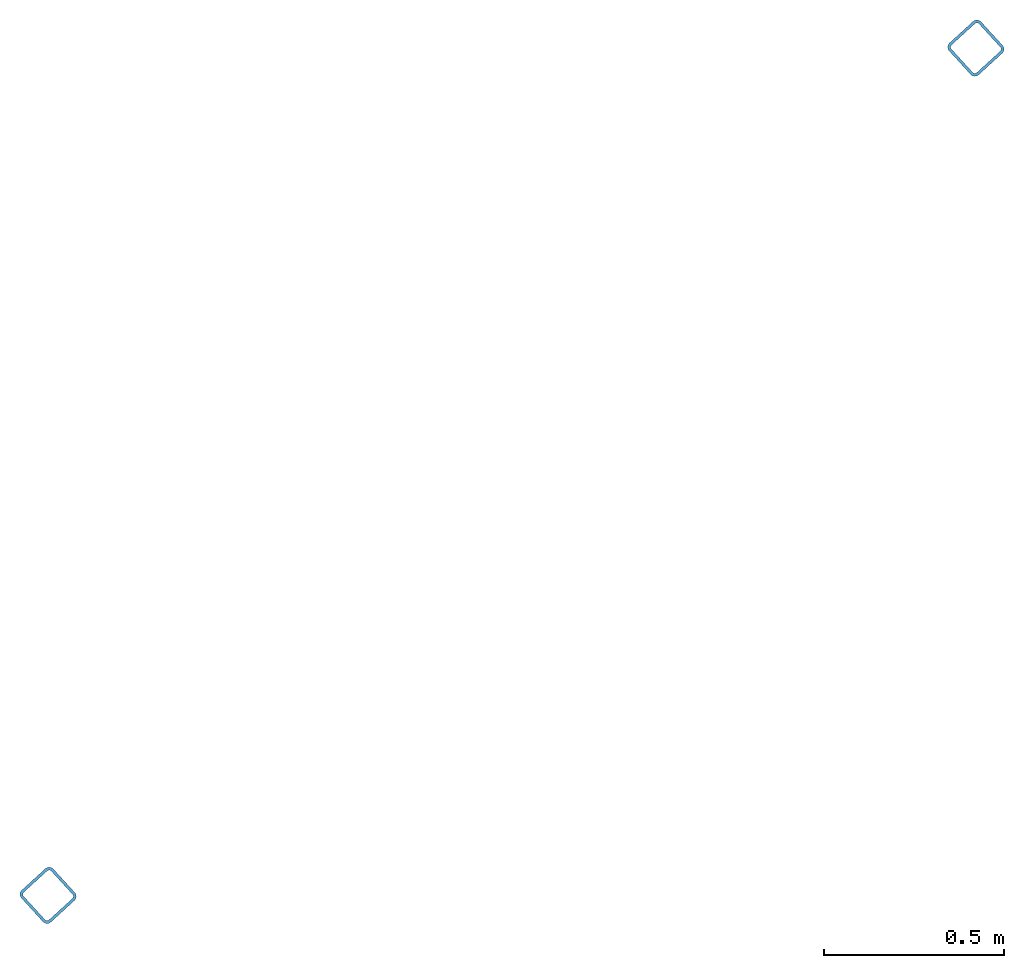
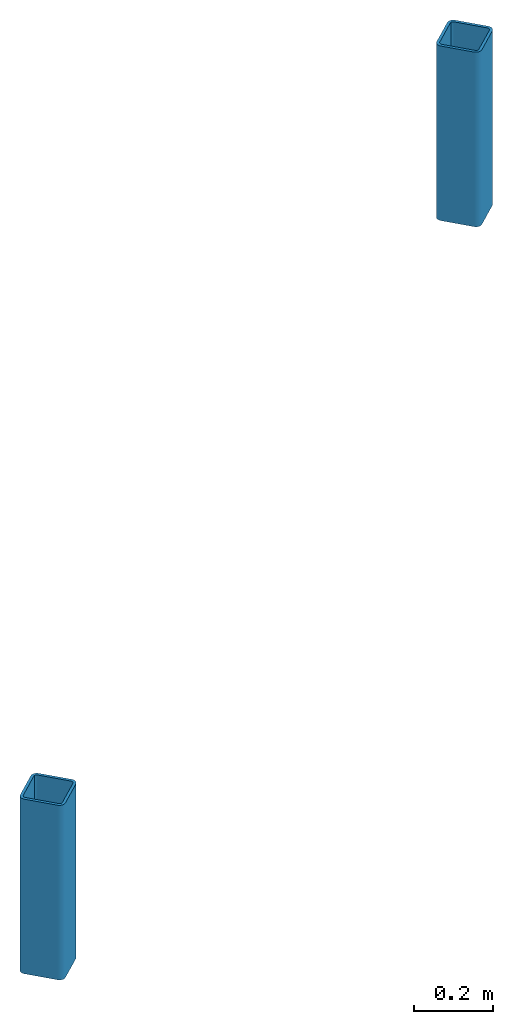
# One storey: 2 columns.
"""IFC2X3 building model written with IfcOpenShell, lengths in millimetres."""

from ifc_helpers import new_model, entity, si_unit, converted_unit, derived_unit, direction, frame, origin, origin_with_axes, place, context, subcontext, project, spatial, faceted_brep, material, type_object, element, save


model = new_model("IFC2X3")

# Units and contexts
model_context = context("Model", 3, precision=0.01, world=origin(), true_north=direction((6.12323399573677e-17, 1.0)))
plan_context = context("Plan", 3, precision=1e-05, world=origin_with_axes())
body_context = subcontext(model_context, "Body", "Model", "MODEL_VIEW")
ifc_project = project(units=[converted_unit("PLANEANGLEUNIT", "DEGREE", entity("IfcPositiveLengthMeasure", 0.0174532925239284), si_unit("PLANEANGLEUNIT", "RADIAN"), dimensions=[0, 0, 0, 0, 0, 0, 0]), si_unit("AREAUNIT", "SQUARE_METRE"), si_unit("LENGTHUNIT", "METRE", prefix="MILLI"), si_unit("MASSUNIT", "GRAM", prefix="KILO"), si_unit("POWERUNIT", "WATT"), si_unit("PRESSUREUNIT", "PASCAL", prefix="KILO"), si_unit("FORCEUNIT", "NEWTON", prefix="KILO"), si_unit("ELECTRICVOLTAGEUNIT", "VOLT"), si_unit("ELECTRICCURRENTUNIT", "AMPERE"), si_unit("THERMODYNAMICTEMPERATUREUNIT", "DEGREE_CELSIUS"), si_unit("TIMEUNIT", "SECOND"), si_unit("VOLUMEUNIT", "CUBIC_METRE"), derived_unit("LINEARVELOCITYUNIT", [(si_unit("LENGTHUNIT", "METRE"), 1), (si_unit("TIMEUNIT", "SECOND"), -1)]), derived_unit("VOLUMETRICFLOWRATEUNIT", [(si_unit("VOLUMEUNIT", "CUBIC_METRE"), 1), (si_unit("TIMEUNIT", "SECOND"), -1)]), derived_unit("THERMALTRANSMITTANCEUNIT", [(si_unit("POWERUNIT", "WATT"), 1), (si_unit("THERMODYNAMICTEMPERATUREUNIT", "KELVIN"), -1), (si_unit("AREAUNIT", "SQUARE_METRE"), -1)]), derived_unit("SOUNDPRESSUREUNIT", [(si_unit("PRESSUREUNIT", "PASCAL"), 1)])], contexts=[model_context, plan_context])

# Site, building, storey
site_placement = place(None, frame((0.0, 0.0, 0.0), z_axis=(0.0, 0.0, 1.0), x_axis=(0.214787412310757, -0.97666082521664, 0.0)))
site = spatial("IfcSite", under=ifc_project, at=site_placement, Name="Default", CompositionType="ELEMENT")
building_placement = place(site_placement, origin_with_axes())
building = spatial("IfcBuilding", under=site, at=building_placement, CompositionType="ELEMENT")
storey_placement = place(building_placement, frame((0.0, 0.0, 5100.0), z_axis=(0.0, 0.0, 1.0), x_axis=(1.0, 0.0, 0.0)))
storey = spatial("IfcBuildingStorey", under=building, at=storey_placement, Name="1. ETASJE", CompositionType="ELEMENT", Elevation=5099.99999999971)

# Columns
ifc_material = material(Name="Stål - S355J")
column_type = type_object("IfcColumnType", Name="NO_Column_Steel_Hollow Rectangular:RHS 120x120x8", PredefinedType="COLUMN", material=ifc_material)
column_1_placement = place(storey_placement, frame((-63597.8728076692, 292993.846004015, -5100.0), z_axis=(0.0, 0.0, 1.0), x_axis=(0.866025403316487, 0.500000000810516, 0.0)))
element("IfcColumn", 1, at=column_1_placement, inside=storey, type_object=column_type, Name="NO_Column_Steel_Hollow Rectangular:RHS 120x120x8", ObjectType="NO_Column_Steel_Hollow Rectangular:RHS 120x120x8", context=body_context, shape_type="Brep", body=[
    faceted_brep([(44.0, 52.0, 8300.0), (-44.0, 52.0, 8300.0), (-44.0, 52.0, 8840.0), (44.0, 52.0, 8840.0), (45.2514757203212, 51.9015067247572, 8300.0), (45.2514757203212, 51.9015067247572, 8840.0), (46.4721359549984, 51.6084521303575, 8300.0), (46.4721359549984, 51.6084521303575, 8840.0), (47.6319239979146, 51.1280521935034, 8300.0), (47.6319239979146, 51.1280521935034, 8840.0), (48.7022820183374, 50.4721359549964, 8300.0), (48.7022820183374, 50.4721359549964, 8840.0), (49.6568542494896, 49.6568542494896, 8300.0), (49.6568542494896, 49.6568542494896, 8840.0), (50.4721359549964, 48.7022820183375, 8300.0), (50.4721359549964, 48.7022820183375, 8840.0), (51.1280521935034, 47.6319239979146, 8300.0), (51.1280521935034, 47.6319239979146, 8840.0), (51.6084521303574, 46.4721359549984, 8300.0), (51.6084521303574, 46.4721359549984, 8840.0), (51.9015067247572, 45.2514757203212, 8300.0), (51.9015067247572, 45.2514757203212, 8840.0), (52.0, 44.0, 8300.0), (52.0, 44.0, 8840.0), (52.0, -44.0, 8300.0), (52.0, -44.0, 8840.0), (51.9015067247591, -45.2514757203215, 8300.0), (51.9015067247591, -45.2514757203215, 8840.0), (51.6084521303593, -46.4721359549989, 8300.0), (51.6084521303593, -46.4721359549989, 8840.0), (51.1280521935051, -47.6319239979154, 8300.0), (51.1280521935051, -47.6319239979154, 8840.0), (50.4721359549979, -48.7022820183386, 8300.0), (50.4721359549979, -48.7022820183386, 8840.0), (49.6568542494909, -49.6568542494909, 8300.0), (49.6568542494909, -49.6568542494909, 8840.0), (48.7022820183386, -50.4721359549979, 8300.0), (48.7022820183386, -50.4721359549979, 8840.0), (47.6319239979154, -51.1280521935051, 8300.0), (47.6319239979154, -51.1280521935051, 8840.0), (46.4721359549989, -51.6084521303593, 8300.0), (46.4721359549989, -51.6084521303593, 8840.0), (45.2514757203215, -51.9015067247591, 8300.0), (45.2514757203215, -51.9015067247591, 8840.0), (44.0, -52.0000000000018, 8300.0), (44.0, -52.0000000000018, 8840.0), (-44.0, -52.0000000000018, 8300.0), (-44.0, -52.0000000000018, 8840.0), (-45.2514757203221, -51.9015067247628, 8300.0), (-45.2514757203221, -51.9015067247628, 8840.0), (-46.4721359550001, -51.6084521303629, 8300.0), (-46.4721359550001, -51.6084521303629, 8840.0), (-47.6319239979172, -51.1280521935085, 8300.0), (-47.6319239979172, -51.1280521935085, 8840.0), (-48.7022820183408, -50.472135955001, 8300.0), (-48.7022820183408, -50.472135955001, 8840.0), (-49.6568542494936, -49.6568542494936, 8300.0), (-49.6568542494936, -49.6568542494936, 8840.0), (-50.472135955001, -48.7022820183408, 8300.0), (-50.472135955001, -48.7022820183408, 8840.0), (-51.1280521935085, -47.6319239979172, 8300.0), (-51.1280521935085, -47.6319239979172, 8840.0), (-51.6084521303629, -46.4721359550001, 8300.0), (-51.6084521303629, -46.4721359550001, 8840.0), (-51.9015067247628, -45.2514757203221, 8300.0), (-51.9015067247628, -45.2514757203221, 8840.0), (-52.0000000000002, -44.0, 8300.0), (-52.0000000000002, -44.0, 8840.0), (-52.0000000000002, 44.0, 8300.0), (-52.0000000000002, 44.0, 8840.0), (-51.8784620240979, 45.3891854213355, 8300.0), (-51.8784620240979, 45.3891854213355, 8840.0), (-51.5175409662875, 46.7361611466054, 8300.0), (-51.5175409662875, 46.7361611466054, 8840.0), (-50.9282032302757, 48.0000000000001, 8300.0), (-50.9282032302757, 48.0000000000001, 8840.0), (-50.128355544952, 49.1423008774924, 8300.0), (-50.128355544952, 49.1423008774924, 8840.0), (-49.1423008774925, 50.128355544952, 8300.0), (-49.1423008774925, 50.128355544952, 8840.0), (-48.0000000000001, 50.9282032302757, 8300.0), (-48.0000000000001, 50.9282032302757, 8840.0), (-46.7361611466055, 51.5175409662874, 8300.0), (-46.7361611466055, 51.5175409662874, 8840.0), (-45.3891854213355, 51.8784620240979, 8300.0), (-45.3891854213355, 51.8784620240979, 8840.0), (44.0, 60.0, 8300.0), (46.7783708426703, 59.7569240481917, 8300.0), (46.7783708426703, 59.7569240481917, 8840.0), (44.0, 60.0, 8840.0), (-44.0, 59.9999999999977, 8300.0), (-44.0, 59.9999999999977, 8840.0), (-46.7783708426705, 59.7569240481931, 8300.0), (-46.7783708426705, 59.7569240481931, 8840.0), (-49.4723222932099, 59.0350819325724, 8300.0), (-49.4723222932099, 59.0350819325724, 8840.0), (-51.9999999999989, 57.856406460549, 8300.0), (-51.9999999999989, 57.856406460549, 8840.0), (-54.2846017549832, 56.2567110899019, 8300.0), (-54.2846017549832, 56.2567110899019, 8840.0), (-56.2567110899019, 54.2846017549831, 8300.0), (-56.2567110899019, 54.2846017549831, 8840.0), (-57.856406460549, 51.9999999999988, 8300.0), (-57.856406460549, 51.9999999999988, 8840.0), (-59.0350819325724, 49.4723222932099, 8300.0), (-59.0350819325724, 49.4723222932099, 8840.0), (-59.7569240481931, 46.7783708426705, 8300.0), (-59.7569240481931, 46.7783708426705, 8840.0), (-60.0, 44.0, 8300.0), (-60.0, 44.0, 8840.0), (-60.0000000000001, -44.0, 8300.0), (-60.0000000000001, -44.0, 8840.0), (-59.8030134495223, -46.5029514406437, 8300.0), (-59.8030134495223, -46.5029514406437, 8840.0), (-59.2169042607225, -48.9442719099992, 8300.0), (-59.2169042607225, -48.9442719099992, 8840.0), (-58.256104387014, -51.2638479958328, 8300.0), (-58.256104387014, -51.2638479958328, 8840.0), (-56.9442719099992, -53.4045640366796, 8300.0), (-56.9442719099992, -53.4045640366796, 8840.0), (-55.3137084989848, -55.3137084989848, 8300.0), (-55.3137084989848, -55.3137084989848, 8840.0), (-53.4045640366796, -56.9442719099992, 8300.0), (-53.4045640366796, -56.9442719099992, 8840.0), (-51.2638479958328, -58.256104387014, 8300.0), (-51.2638479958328, -58.256104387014, 8840.0), (-48.9442719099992, -59.2169042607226, 8300.0), (-48.9442719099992, -59.2169042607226, 8840.0), (-46.5029514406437, -59.8030134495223, 8300.0), (-46.5029514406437, -59.8030134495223, 8840.0), (-44.0, -60.0, 8300.0), (-44.0, -60.0, 8840.0), (43.9999999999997, -60.0000000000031, 8300.0), (43.9999999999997, -60.0000000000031, 8840.0), (46.5029514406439, -59.8030134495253, 8300.0), (46.5029514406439, -59.8030134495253, 8840.0), (48.9442719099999, -59.2169042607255, 8300.0), (48.9442719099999, -59.2169042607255, 8840.0), (51.263847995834, -58.2561043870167, 8300.0), (51.263847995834, -58.2561043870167, 8840.0), (53.4045640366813, -56.9442719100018, 8300.0), (53.4045640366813, -56.9442719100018, 8840.0), (55.3137084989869, -55.313708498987, 8300.0), (55.3137084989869, -55.313708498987, 8840.0), (56.9442719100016, -53.4045640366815, 8300.0), (56.9442719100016, -53.4045640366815, 8840.0), (58.2561043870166, -51.2638479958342, 8300.0), (58.2561043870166, -51.2638479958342, 8840.0), (59.2169042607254, -48.9442719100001, 8300.0), (59.2169042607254, -48.9442719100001, 8840.0), (59.8030134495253, -46.5029514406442, 8300.0), (59.8030134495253, -46.5029514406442, 8840.0), (60.0, -44.0, 8300.0), (60.0, -44.0, 8840.0), (59.9999999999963, 44.0, 8300.0), (59.9999999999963, 44.0, 8840.0), (59.7569240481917, 46.7783708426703, 8300.0), (59.7569240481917, 46.7783708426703, 8840.0), (59.0350819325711, 49.4723222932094, 8300.0), (59.0350819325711, 49.4723222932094, 8840.0), (57.8564064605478, 51.9999999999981, 8300.0), (57.8564064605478, 51.9999999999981, 8840.0), (56.2567110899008, 54.2846017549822, 8300.0), (56.2567110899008, 54.2846017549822, 8840.0), (54.2846017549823, 56.2567110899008, 8300.0), (54.2846017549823, 56.2567110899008, 8840.0), (51.9999999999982, 57.8564064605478, 8300.0), (51.9999999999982, 57.8564064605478, 8840.0), (49.4723222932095, 59.035081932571, 8300.0), (49.4723222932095, 59.035081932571, 8840.0)], [[[0, 1, 2, 3]], [[4, 0, 3, 5]], [[6, 4, 5, 7]], [[8, 6, 7, 9]], [[10, 8, 9, 11]], [[12, 10, 11, 13]], [[14, 12, 13, 15]], [[16, 14, 15, 17]], [[18, 16, 17, 19]], [[20, 18, 19, 21]], [[22, 20, 21, 23]], [[24, 22, 23, 25]], [[26, 24, 25, 27]], [[28, 26, 27, 29]], [[30, 28, 29, 31]], [[32, 30, 31, 33]], [[34, 32, 33, 35]], [[36, 34, 35, 37]], [[38, 36, 37, 39]], [[40, 38, 39, 41]], [[42, 40, 41, 43]], [[44, 42, 43, 45]], [[46, 44, 45, 47]], [[48, 46, 47, 49]], [[50, 48, 49, 51]], [[52, 50, 51, 53]], [[54, 52, 53, 55]], [[56, 54, 55, 57]], [[58, 56, 57, 59]], [[60, 58, 59, 61]], [[62, 60, 61, 63]], [[64, 62, 63, 65]], [[66, 64, 65, 67]], [[68, 66, 67, 69]], [[70, 68, 69, 71]], [[72, 70, 71, 73]], [[74, 72, 73, 75]], [[76, 74, 75, 77]], [[78, 76, 77, 79]], [[80, 78, 79, 81]], [[82, 80, 81, 83]], [[84, 82, 83, 85]], [[1, 84, 85, 2]], [[86, 87, 88, 89]], [[90, 86, 89, 91]], [[92, 90, 91, 93]], [[94, 92, 93, 95]], [[96, 94, 95, 97]], [[98, 96, 97, 99]], [[100, 98, 99, 101]], [[102, 100, 101, 103]], [[104, 102, 103, 105]], [[106, 104, 105, 107]], [[108, 106, 107, 109]], [[110, 108, 109, 111]], [[112, 110, 111, 113]], [[114, 112, 113, 115]], [[116, 114, 115, 117]], [[118, 116, 117, 119]], [[120, 118, 119, 121]], [[122, 120, 121, 123]], [[124, 122, 123, 125]], [[126, 124, 125, 127]], [[128, 126, 127, 129]], [[130, 128, 129, 131]], [[132, 130, 131, 133]], [[134, 132, 133, 135]], [[136, 134, 135, 137]], [[138, 136, 137, 139]], [[140, 138, 139, 141]], [[142, 140, 141, 143]], [[144, 142, 143, 145]], [[146, 144, 145, 147]], [[148, 146, 147, 149]], [[150, 148, 149, 151]], [[152, 150, 151, 153]], [[154, 152, 153, 155]], [[156, 154, 155, 157]], [[158, 156, 157, 159]], [[160, 158, 159, 161]], [[162, 160, 161, 163]], [[164, 162, 163, 165]], [[166, 164, 165, 167]], [[168, 166, 167, 169]], [[87, 168, 169, 88]], [[89, 88, 169, 167, 165, 163, 161, 159, 157, 155, 153, 151, 149, 147, 145, 143, 141, 139, 137, 135, 133, 131, 129, 127, 125, 123, 121, 119, 117, 115, 113, 111, 109, 107, 105, 103, 101, 99, 97, 95, 93, 91], [2, 85, 83, 81, 79, 77, 75, 73, 71, 69, 67, 65, 63, 61, 59, 57, 55, 53, 51, 49, 47, 45, 43, 41, 39, 37, 35, 33, 31, 29, 27, 25, 23, 21, 19, 17, 15, 13, 11, 9, 7, 5, 3]], [[90, 92, 94, 96, 98, 100, 102, 104, 106, 108, 110, 112, 114, 116, 118, 120, 122, 124, 126, 128, 130, 132, 134, 136, 138, 140, 142, 144, 146, 148, 150, 152, 154, 156, 158, 160, 162, 164, 166, 168, 87, 86], [4, 6, 8, 10, 12, 14, 16, 18, 20, 22, 24, 26, 28, 30, 32, 34, 36, 38, 40, 42, 44, 46, 48, 50, 52, 54, 56, 58, 60, 62, 64, 66, 68, 70, 72, 74, 76, 78, 80, 82, 84, 1, 0]]], orient=[[False], [False], [False], [False], [False], [False], [False], [False], [False], [False], [False], [False], [False], [False], [False], [False], [False], [False], [False], [False], [False], [False], [False], [False], [False], [False], [False], [False], [False], [False], [False], [False], [False], [False], [False], [False], [False], [False], [False], [False], [False], [False], [False], [False], [False], [False], [False], [False], [False], [False], [False], [False], [False], [False], [False], [False], [False], [False], [False], [False], [False], [False], [False], [False], [False], [False], [False], [False], [False], [False], [False], [False], [False], [False], [False], [False], [False], [False], [False], [False], [False], [False], [False], [False], [False], [False, False], [False, False]]),
])
column_2_placement = place(storey_placement, frame((-61852.8728045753, 289971.417346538, -5100.0), z_axis=(0.0, 0.0, 1.0), x_axis=(0.866025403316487, 0.500000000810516, 0.0)))
element("IfcColumn", 2, at=column_2_placement, inside=storey, type_object=column_type, Name="NO_Column_Steel_Hollow Rectangular:RHS 120x120x8", ObjectType="NO_Column_Steel_Hollow Rectangular:RHS 120x120x8", context=body_context, shape_type="Brep", body=[
    faceted_brep([(44.0, 52.0, 8300.0), (-44.0, 52.0, 8300.0), (-44.0, 52.0, 8840.0), (44.0, 52.0, 8840.0), (45.2514757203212, 51.9015067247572, 8300.0), (45.2514757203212, 51.9015067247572, 8840.0), (46.4721359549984, 51.6084521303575, 8300.0), (46.4721359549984, 51.6084521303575, 8840.0), (47.6319239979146, 51.1280521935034, 8300.0), (47.6319239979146, 51.1280521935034, 8840.0), (48.7022820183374, 50.4721359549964, 8300.0), (48.7022820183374, 50.4721359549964, 8840.0), (49.6568542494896, 49.6568542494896, 8300.0), (49.6568542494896, 49.6568542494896, 8840.0), (50.4721359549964, 48.7022820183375, 8300.0), (50.4721359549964, 48.7022820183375, 8840.0), (51.1280521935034, 47.6319239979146, 8300.0), (51.1280521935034, 47.6319239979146, 8840.0), (51.6084521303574, 46.4721359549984, 8300.0), (51.6084521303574, 46.4721359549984, 8840.0), (51.9015067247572, 45.2514757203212, 8300.0), (51.9015067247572, 45.2514757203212, 8840.0), (52.0, 44.0, 8300.0), (52.0, 44.0, 8840.0), (52.0, -44.0, 8300.0), (52.0, -44.0, 8840.0), (51.9015067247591, -45.2514757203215, 8300.0), (51.9015067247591, -45.2514757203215, 8840.0), (51.6084521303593, -46.4721359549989, 8300.0), (51.6084521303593, -46.4721359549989, 8840.0), (51.1280521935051, -47.6319239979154, 8300.0), (51.1280521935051, -47.6319239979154, 8840.0), (50.4721359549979, -48.7022820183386, 8300.0), (50.4721359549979, -48.7022820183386, 8840.0), (49.6568542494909, -49.6568542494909, 8300.0), (49.6568542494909, -49.6568542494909, 8840.0), (48.7022820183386, -50.4721359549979, 8300.0), (48.7022820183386, -50.4721359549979, 8840.0), (47.6319239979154, -51.1280521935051, 8300.0), (47.6319239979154, -51.1280521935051, 8840.0), (46.4721359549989, -51.6084521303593, 8300.0), (46.4721359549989, -51.6084521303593, 8840.0), (45.2514757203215, -51.9015067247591, 8300.0), (45.2514757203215, -51.9015067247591, 8840.0), (44.0, -52.0000000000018, 8300.0), (44.0, -52.0000000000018, 8840.0), (-44.0, -52.0000000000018, 8300.0), (-44.0, -52.0000000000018, 8840.0), (-45.2514757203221, -51.9015067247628, 8300.0), (-45.2514757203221, -51.9015067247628, 8840.0), (-46.4721359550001, -51.6084521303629, 8300.0), (-46.4721359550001, -51.6084521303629, 8840.0), (-47.6319239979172, -51.1280521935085, 8300.0), (-47.6319239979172, -51.1280521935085, 8840.0), (-48.7022820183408, -50.472135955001, 8300.0), (-48.7022820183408, -50.472135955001, 8840.0), (-49.6568542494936, -49.6568542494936, 8300.0), (-49.6568542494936, -49.6568542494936, 8840.0), (-50.472135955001, -48.7022820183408, 8300.0), (-50.472135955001, -48.7022820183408, 8840.0), (-51.1280521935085, -47.6319239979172, 8300.0), (-51.1280521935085, -47.6319239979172, 8840.0), (-51.6084521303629, -46.4721359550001, 8300.0), (-51.6084521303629, -46.4721359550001, 8840.0), (-51.9015067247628, -45.2514757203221, 8300.0), (-51.9015067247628, -45.2514757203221, 8840.0), (-52.0000000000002, -44.0, 8300.0), (-52.0000000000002, -44.0, 8840.0), (-52.0000000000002, 44.0, 8300.0), (-52.0000000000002, 44.0, 8840.0), (-51.8784620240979, 45.3891854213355, 8300.0), (-51.8784620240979, 45.3891854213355, 8840.0), (-51.5175409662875, 46.7361611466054, 8300.0), (-51.5175409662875, 46.7361611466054, 8840.0), (-50.9282032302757, 48.0000000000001, 8300.0), (-50.9282032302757, 48.0000000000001, 8840.0), (-50.128355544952, 49.1423008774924, 8300.0), (-50.128355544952, 49.1423008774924, 8840.0), (-49.1423008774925, 50.128355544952, 8300.0), (-49.1423008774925, 50.128355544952, 8840.0), (-48.0000000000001, 50.9282032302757, 8300.0), (-48.0000000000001, 50.9282032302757, 8840.0), (-46.7361611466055, 51.5175409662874, 8300.0), (-46.7361611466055, 51.5175409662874, 8840.0), (-45.3891854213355, 51.8784620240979, 8300.0), (-45.3891854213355, 51.8784620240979, 8840.0), (44.0, 60.0, 8300.0), (46.7783708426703, 59.7569240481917, 8300.0), (46.7783708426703, 59.7569240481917, 8840.0), (44.0, 60.0, 8840.0), (-44.0, 59.9999999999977, 8300.0), (-44.0, 59.9999999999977, 8840.0), (-46.7783708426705, 59.7569240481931, 8300.0), (-46.7783708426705, 59.7569240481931, 8840.0), (-49.4723222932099, 59.0350819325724, 8300.0), (-49.4723222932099, 59.0350819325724, 8840.0), (-51.9999999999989, 57.856406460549, 8300.0), (-51.9999999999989, 57.856406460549, 8840.0), (-54.2846017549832, 56.2567110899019, 8300.0), (-54.2846017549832, 56.2567110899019, 8840.0), (-56.2567110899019, 54.2846017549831, 8300.0), (-56.2567110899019, 54.2846017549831, 8840.0), (-57.856406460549, 51.9999999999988, 8300.0), (-57.856406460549, 51.9999999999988, 8840.0), (-59.0350819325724, 49.4723222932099, 8300.0), (-59.0350819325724, 49.4723222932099, 8840.0), (-59.7569240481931, 46.7783708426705, 8300.0), (-59.7569240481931, 46.7783708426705, 8840.0), (-60.0, 44.0, 8300.0), (-60.0, 44.0, 8840.0), (-60.0000000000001, -44.0, 8300.0), (-60.0000000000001, -44.0, 8840.0), (-59.8030134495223, -46.5029514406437, 8300.0), (-59.8030134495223, -46.5029514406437, 8840.0), (-59.2169042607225, -48.9442719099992, 8300.0), (-59.2169042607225, -48.9442719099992, 8840.0), (-58.256104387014, -51.2638479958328, 8300.0), (-58.256104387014, -51.2638479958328, 8840.0), (-56.9442719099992, -53.4045640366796, 8300.0), (-56.9442719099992, -53.4045640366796, 8840.0), (-55.3137084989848, -55.3137084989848, 8300.0), (-55.3137084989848, -55.3137084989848, 8840.0), (-53.4045640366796, -56.9442719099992, 8300.0), (-53.4045640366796, -56.9442719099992, 8840.0), (-51.2638479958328, -58.256104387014, 8300.0), (-51.2638479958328, -58.256104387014, 8840.0), (-48.9442719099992, -59.2169042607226, 8300.0), (-48.9442719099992, -59.2169042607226, 8840.0), (-46.5029514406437, -59.8030134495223, 8300.0), (-46.5029514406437, -59.8030134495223, 8840.0), (-44.0, -60.0, 8300.0), (-44.0, -60.0, 8840.0), (43.9999999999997, -60.0000000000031, 8300.0), (43.9999999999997, -60.0000000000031, 8840.0), (46.5029514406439, -59.8030134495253, 8300.0), (46.5029514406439, -59.8030134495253, 8840.0), (48.9442719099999, -59.2169042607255, 8300.0), (48.9442719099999, -59.2169042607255, 8840.0), (51.263847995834, -58.2561043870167, 8300.0), (51.263847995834, -58.2561043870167, 8840.0), (53.4045640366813, -56.9442719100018, 8300.0), (53.4045640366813, -56.9442719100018, 8840.0), (55.3137084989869, -55.313708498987, 8300.0), (55.3137084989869, -55.313708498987, 8840.0), (56.9442719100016, -53.4045640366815, 8300.0), (56.9442719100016, -53.4045640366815, 8840.0), (58.2561043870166, -51.2638479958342, 8300.0), (58.2561043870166, -51.2638479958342, 8840.0), (59.2169042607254, -48.9442719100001, 8300.0), (59.2169042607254, -48.9442719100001, 8840.0), (59.8030134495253, -46.5029514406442, 8300.0), (59.8030134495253, -46.5029514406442, 8840.0), (60.0, -44.0, 8300.0), (60.0, -44.0, 8840.0), (59.9999999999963, 44.0, 8300.0), (59.9999999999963, 44.0, 8840.0), (59.7569240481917, 46.7783708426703, 8300.0), (59.7569240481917, 46.7783708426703, 8840.0), (59.0350819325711, 49.4723222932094, 8300.0), (59.0350819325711, 49.4723222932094, 8840.0), (57.8564064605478, 51.9999999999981, 8300.0), (57.8564064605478, 51.9999999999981, 8840.0), (56.2567110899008, 54.2846017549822, 8300.0), (56.2567110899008, 54.2846017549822, 8840.0), (54.2846017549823, 56.2567110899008, 8300.0), (54.2846017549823, 56.2567110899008, 8840.0), (51.9999999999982, 57.8564064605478, 8300.0), (51.9999999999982, 57.8564064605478, 8840.0), (49.4723222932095, 59.035081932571, 8300.0), (49.4723222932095, 59.035081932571, 8840.0)], [[[0, 1, 2, 3]], [[4, 0, 3, 5]], [[6, 4, 5, 7]], [[8, 6, 7, 9]], [[10, 8, 9, 11]], [[12, 10, 11, 13]], [[14, 12, 13, 15]], [[16, 14, 15, 17]], [[18, 16, 17, 19]], [[20, 18, 19, 21]], [[22, 20, 21, 23]], [[24, 22, 23, 25]], [[26, 24, 25, 27]], [[28, 26, 27, 29]], [[30, 28, 29, 31]], [[32, 30, 31, 33]], [[34, 32, 33, 35]], [[36, 34, 35, 37]], [[38, 36, 37, 39]], [[40, 38, 39, 41]], [[42, 40, 41, 43]], [[44, 42, 43, 45]], [[46, 44, 45, 47]], [[48, 46, 47, 49]], [[50, 48, 49, 51]], [[52, 50, 51, 53]], [[54, 52, 53, 55]], [[56, 54, 55, 57]], [[58, 56, 57, 59]], [[60, 58, 59, 61]], [[62, 60, 61, 63]], [[64, 62, 63, 65]], [[66, 64, 65, 67]], [[68, 66, 67, 69]], [[70, 68, 69, 71]], [[72, 70, 71, 73]], [[74, 72, 73, 75]], [[76, 74, 75, 77]], [[78, 76, 77, 79]], [[80, 78, 79, 81]], [[82, 80, 81, 83]], [[84, 82, 83, 85]], [[1, 84, 85, 2]], [[86, 87, 88, 89]], [[90, 86, 89, 91]], [[92, 90, 91, 93]], [[94, 92, 93, 95]], [[96, 94, 95, 97]], [[98, 96, 97, 99]], [[100, 98, 99, 101]], [[102, 100, 101, 103]], [[104, 102, 103, 105]], [[106, 104, 105, 107]], [[108, 106, 107, 109]], [[110, 108, 109, 111]], [[112, 110, 111, 113]], [[114, 112, 113, 115]], [[116, 114, 115, 117]], [[118, 116, 117, 119]], [[120, 118, 119, 121]], [[122, 120, 121, 123]], [[124, 122, 123, 125]], [[126, 124, 125, 127]], [[128, 126, 127, 129]], [[130, 128, 129, 131]], [[132, 130, 131, 133]], [[134, 132, 133, 135]], [[136, 134, 135, 137]], [[138, 136, 137, 139]], [[140, 138, 139, 141]], [[142, 140, 141, 143]], [[144, 142, 143, 145]], [[146, 144, 145, 147]], [[148, 146, 147, 149]], [[150, 148, 149, 151]], [[152, 150, 151, 153]], [[154, 152, 153, 155]], [[156, 154, 155, 157]], [[158, 156, 157, 159]], [[160, 158, 159, 161]], [[162, 160, 161, 163]], [[164, 162, 163, 165]], [[166, 164, 165, 167]], [[168, 166, 167, 169]], [[87, 168, 169, 88]], [[89, 88, 169, 167, 165, 163, 161, 159, 157, 155, 153, 151, 149, 147, 145, 143, 141, 139, 137, 135, 133, 131, 129, 127, 125, 123, 121, 119, 117, 115, 113, 111, 109, 107, 105, 103, 101, 99, 97, 95, 93, 91], [2, 85, 83, 81, 79, 77, 75, 73, 71, 69, 67, 65, 63, 61, 59, 57, 55, 53, 51, 49, 47, 45, 43, 41, 39, 37, 35, 33, 31, 29, 27, 25, 23, 21, 19, 17, 15, 13, 11, 9, 7, 5, 3]], [[90, 92, 94, 96, 98, 100, 102, 104, 106, 108, 110, 112, 114, 116, 118, 120, 122, 124, 126, 128, 130, 132, 134, 136, 138, 140, 142, 144, 146, 148, 150, 152, 154, 156, 158, 160, 162, 164, 166, 168, 87, 86], [4, 6, 8, 10, 12, 14, 16, 18, 20, 22, 24, 26, 28, 30, 32, 34, 36, 38, 40, 42, 44, 46, 48, 50, 52, 54, 56, 58, 60, 62, 64, 66, 68, 70, 72, 74, 76, 78, 80, 82, 84, 1, 0]]], orient=[[False], [False], [False], [False], [False], [False], [False], [False], [False], [False], [False], [False], [False], [False], [False], [False], [False], [False], [False], [False], [False], [False], [False], [False], [False], [False], [False], [False], [False], [False], [False], [False], [False], [False], [False], [False], [False], [False], [False], [False], [False], [False], [False], [False], [False], [False], [False], [False], [False], [False], [False], [False], [False], [False], [False], [False], [False], [False], [False], [False], [False], [False], [False], [False], [False], [False], [False], [False], [False], [False], [False], [False], [False], [False], [False], [False], [False], [False], [False], [False], [False], [False], [False], [False], [False], [False, False], [False, False]]),
])

save(model, "model.ifc")
